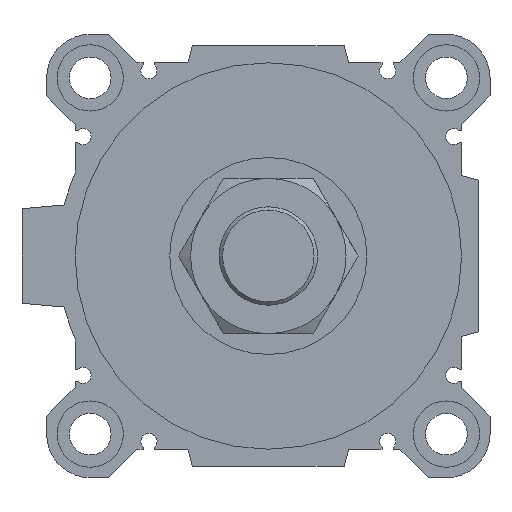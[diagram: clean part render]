
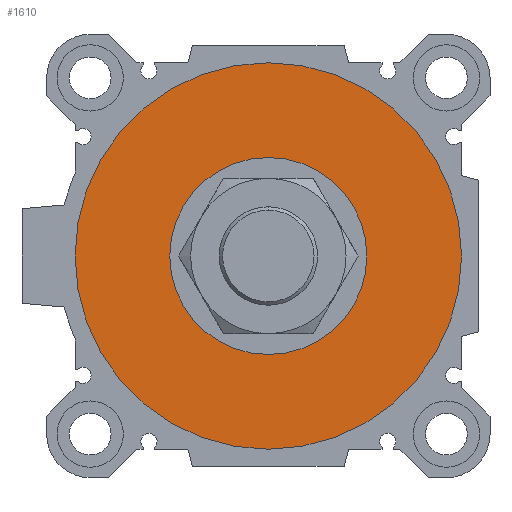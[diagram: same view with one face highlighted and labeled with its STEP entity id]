
A CAD part, left-side view. The second image highlights one B-rep face of the part: STEP entity #1610.
In plain terms, the highlighted planar face has unit normal (-1, 0, 0).
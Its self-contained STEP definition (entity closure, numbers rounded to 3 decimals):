
#223 = CARTESIAN_POINT ( 'NONE',  ( 6.5, 0., 0. ) ) ;
#583 = VERTEX_POINT ( 'NONE', #3194 ) ;
#668 = PLANE ( 'NONE',  #2703 ) ;
#787 = FACE_OUTER_BOUND ( 'NONE', #3498, .T. ) ;
#924 = EDGE_LOOP ( 'NONE', ( #1586, #5645 ) ) ;
#1425 = FACE_BOUND ( 'NONE', #924, .T. ) ;
#1586 = ORIENTED_EDGE ( 'NONE', *, *, #2284, .T. ) ;
#1610 = ADVANCED_FACE ( 'NONE', ( #787, #1425 ), #668, .F. ) ;
#2027 = CARTESIAN_POINT ( 'NONE',  ( 6.5, 0., 0. ) ) ;
#2193 = DIRECTION ( 'NONE',  ( 0., 0., -1. ) ) ;
#2284 = EDGE_CURVE ( 'NONE', #583, #5661, #2598, .T. ) ;
#2488 = VERTEX_POINT ( 'NONE', #2915 ) ;
#2598 = CIRCLE ( 'NONE', #3372, 26. ) ;
#2703 = AXIS2_PLACEMENT_3D ( 'NONE', #5607, #6883, #5527 ) ;
#2915 = CARTESIAN_POINT ( 'NONE',  ( 6.5, 0., -51. ) ) ;
#3046 = AXIS2_PLACEMENT_3D ( 'NONE', #3434, #7745, #4671 ) ;
#3164 = DIRECTION ( 'NONE',  ( 1., 0., 0. ) ) ;
#3194 = CARTESIAN_POINT ( 'NONE',  ( 6.5, 0., 26. ) ) ;
#3372 = AXIS2_PLACEMENT_3D ( 'NONE', #2027, #7382, #6253 ) ;
#3434 = CARTESIAN_POINT ( 'NONE',  ( 6.5, 0., 0. ) ) ;
#3498 = EDGE_LOOP ( 'NONE', ( #6091, #7087 ) ) ;
#4037 = DIRECTION ( 'NONE',  ( 1., 0., 0. ) ) ;
#4063 = CIRCLE ( 'NONE', #4697, 51. ) ;
#4671 = DIRECTION ( 'NONE',  ( 0., 0., -1. ) ) ;
#4697 = AXIS2_PLACEMENT_3D ( 'NONE', #7591, #4037, #2193 ) ;
#4997 = DIRECTION ( 'NONE',  ( 0., 0., -1. ) ) ;
#5045 = CIRCLE ( 'NONE', #7205, 51. ) ;
#5187 = EDGE_CURVE ( 'NONE', #2488, #7670, #5045, .T. ) ;
#5527 = DIRECTION ( 'NONE',  ( 0., 1., 0. ) ) ;
#5607 = CARTESIAN_POINT ( 'NONE',  ( 6.5, 0., 0. ) ) ;
#5645 = ORIENTED_EDGE ( 'NONE', *, *, #6288, .T. ) ;
#5661 = VERTEX_POINT ( 'NONE', #6646 ) ;
#6091 = ORIENTED_EDGE ( 'NONE', *, *, #6355, .F. ) ;
#6253 = DIRECTION ( 'NONE',  ( 0., 0., -1. ) ) ;
#6288 = EDGE_CURVE ( 'NONE', #5661, #583, #6356, .T. ) ;
#6355 = EDGE_CURVE ( 'NONE', #7670, #2488, #4063, .T. ) ;
#6356 = CIRCLE ( 'NONE', #3046, 26. ) ;
#6552 = CARTESIAN_POINT ( 'NONE',  ( 6.5, 0., 51. ) ) ;
#6646 = CARTESIAN_POINT ( 'NONE',  ( 6.5, 0., -26. ) ) ;
#6883 = DIRECTION ( 'NONE',  ( 1., 0., 0. ) ) ;
#7087 = ORIENTED_EDGE ( 'NONE', *, *, #5187, .F. ) ;
#7205 = AXIS2_PLACEMENT_3D ( 'NONE', #223, #3164, #4997 ) ;
#7382 = DIRECTION ( 'NONE',  ( 1., 0., 0. ) ) ;
#7591 = CARTESIAN_POINT ( 'NONE',  ( 6.5, 0., 0. ) ) ;
#7670 = VERTEX_POINT ( 'NONE', #6552 ) ;
#7745 = DIRECTION ( 'NONE',  ( 1., 0., 0. ) ) ;
